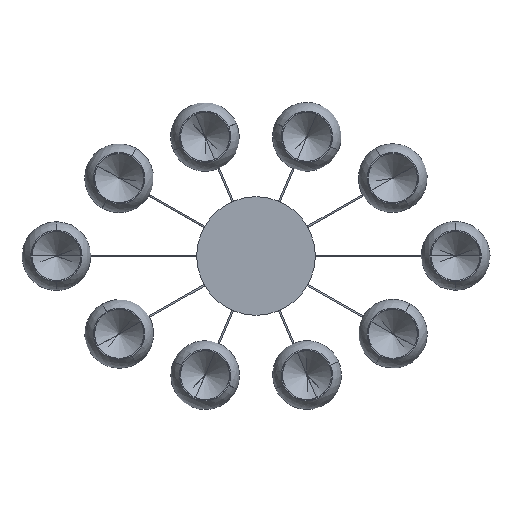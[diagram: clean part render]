
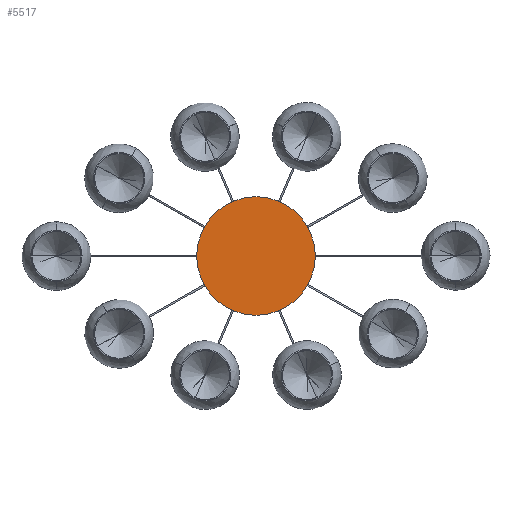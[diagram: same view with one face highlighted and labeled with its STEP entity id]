
A CAD part, front view. The second image highlights one B-rep face of the part: STEP entity #5517.
In plain terms, the highlighted planar face has unit normal (0, -1, 0).
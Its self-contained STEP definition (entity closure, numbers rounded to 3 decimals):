
#227 = PLANE ( 'NONE',  #512 ) ;
#471 = AXIS2_PLACEMENT_3D ( 'NONE', #4396, #2742, #2243 ) ;
#512 = AXIS2_PLACEMENT_3D ( 'NONE', #6693, #6201, #4082 ) ;
#1142 = CARTESIAN_POINT ( 'NONE',  ( 0., 0., 0. ) ) ;
#1432 = EDGE_CURVE ( 'NONE', #2170, #3833, #2123, .T. ) ;
#1799 = FACE_OUTER_BOUND ( 'NONE', #4006, .T. ) ;
#2123 = CIRCLE ( 'NONE', #6966, 155. ) ;
#2170 = VERTEX_POINT ( 'NONE', #2643 ) ;
#2243 = DIRECTION ( 'NONE',  ( 0., 0., 1. ) ) ;
#2353 = EDGE_CURVE ( 'NONE', #3833, #2170, #6780, .T. ) ;
#2643 = CARTESIAN_POINT ( 'NONE',  ( 0., 0., 155. ) ) ;
#2742 = DIRECTION ( 'NONE',  ( 0., 1., 0. ) ) ;
#3300 = DIRECTION ( 'NONE',  ( 0., 1., 0. ) ) ;
#3730 = ORIENTED_EDGE ( 'NONE', *, *, #2353, .F. ) ;
#3833 = VERTEX_POINT ( 'NONE', #5033 ) ;
#4006 = EDGE_LOOP ( 'NONE', ( #3730, #6896 ) ) ;
#4082 = DIRECTION ( 'NONE',  ( 0., 0., 1. ) ) ;
#4396 = CARTESIAN_POINT ( 'NONE',  ( 0., 0., 0. ) ) ;
#5033 = CARTESIAN_POINT ( 'NONE',  ( 0., 0., -155. ) ) ;
#5461 = DIRECTION ( 'NONE',  ( 0., 0., 1. ) ) ;
#5517 = ADVANCED_FACE ( 'NONE', ( #1799 ), #227, .F. ) ;
#6201 = DIRECTION ( 'NONE',  ( 0., 1., 0. ) ) ;
#6693 = CARTESIAN_POINT ( 'NONE',  ( 0., 0., 0. ) ) ;
#6780 = CIRCLE ( 'NONE', #471, 155. ) ;
#6896 = ORIENTED_EDGE ( 'NONE', *, *, #1432, .F. ) ;
#6966 = AXIS2_PLACEMENT_3D ( 'NONE', #1142, #3300, #5461 ) ;
